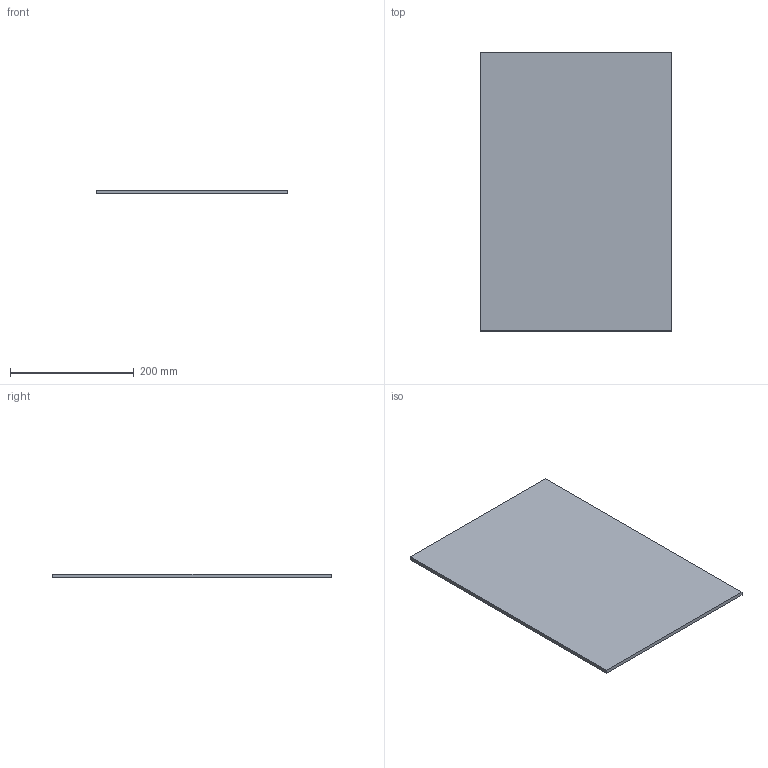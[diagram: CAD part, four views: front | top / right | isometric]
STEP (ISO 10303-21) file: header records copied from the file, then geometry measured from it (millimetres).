
FILE_DESCRIPTION(('Open CASCADE Model'),'2;1');
FILE_NAME('Open CASCADE Shape Model','2026-10-19T10:09:20',('Author'),( 'Open CASCADE'),'Open CASCADE STEP processor 8.0','Open CASCADE 8.0' ,'Unknown');
FILE_SCHEMA(('AUTOMOTIVE_DESIGN { 1 0 10303 214 1 1 1 1 }'));
Length unit declared in the file: millimetre
Products named in the file (1): MG01_HOJA_310x450x6_P05 74
Bounding box: 310 x 450 x 6 mm (x, y, z)
Volume: 837000 mm3; surface area: 288120 mm2
Topology: 1 solids, 1 shells, 6 faces, 12 edges, 8 vertices
Faces by surface type: plane 6
Entity records: 322 total; most frequent: CARTESIAN_POINT 51, DIRECTION 50, LINE 36, VECTOR 36, ORIENTED_EDGE 24, PCURVE 24, DEFINITIONAL_REPRESENTATION 24, EDGE_CURVE 12
